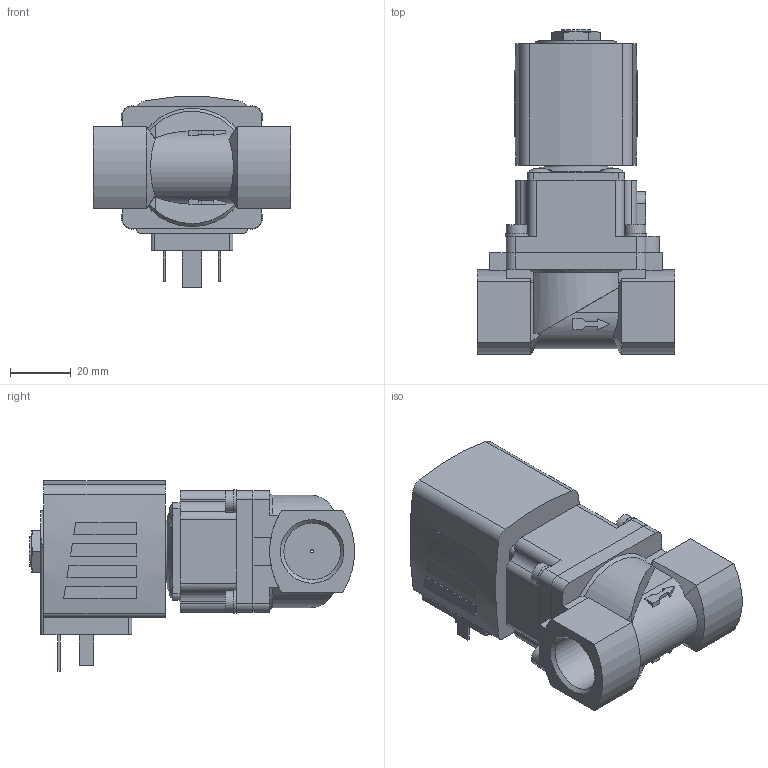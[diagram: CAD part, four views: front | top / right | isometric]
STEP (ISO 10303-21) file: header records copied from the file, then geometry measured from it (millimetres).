
FILE_DESCRIPTION(/* description */ ('STEP AP214'),/* implementation_level */ '2;1');
FILE_NAME(/* name */ '5404-342015-Servo-assisted_2_2_way_piston_valve',/* time_stamp */ '2024-02-20T22:57:02+01:00',/* author */ ('License CC BY-ND 4.0'),/* organization */ ('CADENAS'),/* preprocessor_version */ 'ST-DEVELOPER v19.3',/* originating_system */ 'PARTsolutions',/* authorisation */ ' ');
FILE_SCHEMA (('AUTOMOTIVE_DESIGN {1 0 10303 214 3 1 1}'));
Length unit declared in the file: millimetre
Products named in the file (4): 5404-342015-Servo-assisted 2/2 way piston valve; 5282g-8413MS000-2/2-Wege-Magnetventil_Gehaeuse; 5282d-13MSAU3N-2/2-Wege-Magnetventil_Deckel; AC10ex-6NA38-Plan-Coil
Assembly tree (3 placements, depth 2):
  5404-342015-Servo-assisted 2/2 way piston valve
    5282g-8413MS000-2/2-Wege-Magnetventil_Gehaeuse
    5282d-13MSAU3N-2/2-Wege-Magnetventil_Deckel
    AC10ex-6NA38-Plan-Coil
Bounding box: 65 x 107.02 x 62.83 mm (x, y, z)
Volume: 162049 mm3; surface area: 33055.4 mm2
Topology: 3 solids, 3 shells, 285 faces, 709 edges, 464 vertices
Faces by surface type: plane 187, cylinder 75, cone 18, torus 5
Full cylindrical faces by diameter (mm): 1 x1, 2.013 x1, 4 x4, 7 x4, 7.5 x4, 7.6 x4, 9.74 x1, 18.631 x2, 21 x1
Entity records: 9053 total; most frequent: CARTESIAN_POINT 1555, DIRECTION 1432, ORIENTED_EDGE 1336, EDGE_CURVE 668, AXIS2_PLACEMENT_3D 515, VERTEX_POINT 454, LINE 402, VECTOR 402
